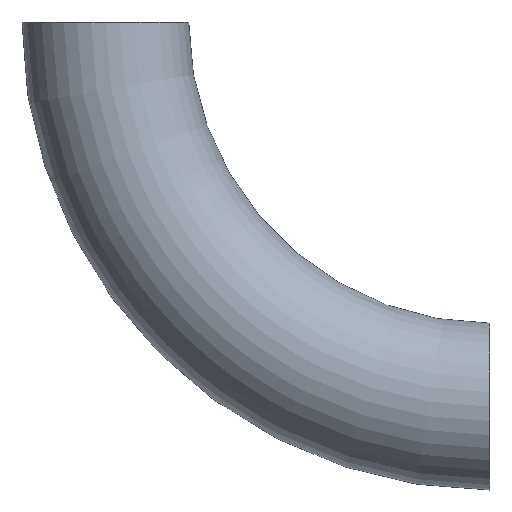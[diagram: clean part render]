
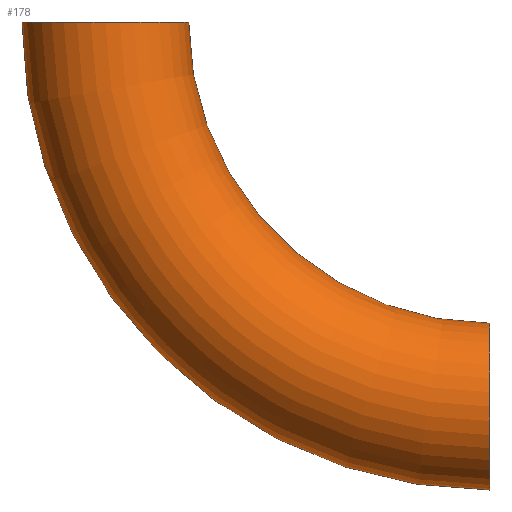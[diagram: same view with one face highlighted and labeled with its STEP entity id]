
A CAD part, front view. The second image highlights one B-rep face of the part: STEP entity #178.
In plain terms, the highlighted toroidal (fillet/blend) face has major radius 205 mm and minor radius 44.45 mm.
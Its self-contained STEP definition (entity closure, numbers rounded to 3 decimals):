
#7 = VERTEX_POINT ( 'NONE', #22 ) ;
#11 = CARTESIAN_POINT ( 'NONE',  ( 0., 0., -205. ) ) ;
#14 = CIRCLE ( 'NONE', #30, 44.45 ) ;
#15 = CARTESIAN_POINT ( 'NONE',  ( -249.45, 0., 0. ) ) ;
#16 = DIRECTION ( 'NONE',  ( 1., 0., 0. ) ) ;
#21 = EDGE_CURVE ( 'NONE', #193, #7, #188, .T. ) ;
#22 = CARTESIAN_POINT ( 'NONE',  ( -160.55, 0., 0. ) ) ;
#26 = TOROIDAL_SURFACE ( 'NONE', #152, 205., 44.45 ) ;
#27 = ORIENTED_EDGE ( 'NONE', *, *, #227, .F. ) ;
#30 = AXIS2_PLACEMENT_3D ( 'NONE', #11, #48, #245 ) ;
#34 = CARTESIAN_POINT ( 'NONE',  ( 0., 0., -249.45 ) ) ;
#42 = DIRECTION ( 'NONE',  ( 0., 0., 1. ) ) ;
#46 = DIRECTION ( 'NONE',  ( 0., 0., 1. ) ) ;
#48 = DIRECTION ( 'NONE',  ( -1., 0., 0. ) ) ;
#58 = ORIENTED_EDGE ( 'NONE', *, *, #232, .F. ) ;
#70 = FACE_OUTER_BOUND ( 'NONE', #135, .T. ) ;
#72 = CIRCLE ( 'NONE', #76, 249.45 ) ;
#76 = AXIS2_PLACEMENT_3D ( 'NONE', #207, #253, #165 ) ;
#82 = ORIENTED_EDGE ( 'NONE', *, *, #157, .T. ) ;
#94 = CIRCLE ( 'NONE', #173, 44.45 ) ;
#113 = ORIENTED_EDGE ( 'NONE', *, *, #21, .T. ) ;
#115 = VERTEX_POINT ( 'NONE', #15 ) ;
#135 = EDGE_LOOP ( 'NONE', ( #58, #82, #113, #27 ) ) ;
#151 = DIRECTION ( 'NONE',  ( 0., 1., 0. ) ) ;
#152 = AXIS2_PLACEMENT_3D ( 'NONE', #164, #162, #225 ) ;
#153 = CARTESIAN_POINT ( 'NONE',  ( 0., 0., 0. ) ) ;
#156 = CARTESIAN_POINT ( 'NONE',  ( -205., 0., 0. ) ) ;
#157 = EDGE_CURVE ( 'NONE', #197, #193, #14, .T. ) ;
#162 = DIRECTION ( 'NONE',  ( 0., 1., 0. ) ) ;
#164 = CARTESIAN_POINT ( 'NONE',  ( 0., 0., 0. ) ) ;
#165 = DIRECTION ( 'NONE',  ( 0., 0., 1. ) ) ;
#172 = AXIS2_PLACEMENT_3D ( 'NONE', #153, #151, #42 ) ;
#173 = AXIS2_PLACEMENT_3D ( 'NONE', #156, #46, #16 ) ;
#178 = ADVANCED_FACE ( 'NONE', ( #70 ), #26, .T. ) ;
#188 = CIRCLE ( 'NONE', #172, 160.55 ) ;
#193 = VERTEX_POINT ( 'NONE', #248 ) ;
#197 = VERTEX_POINT ( 'NONE', #34 ) ;
#207 = CARTESIAN_POINT ( 'NONE',  ( 0., 0., 0. ) ) ;
#225 = DIRECTION ( 'NONE',  ( 0., 0., 1. ) ) ;
#227 = EDGE_CURVE ( 'NONE', #115, #7, #94, .T. ) ;
#232 = EDGE_CURVE ( 'NONE', #197, #115, #72, .T. ) ;
#245 = DIRECTION ( 'NONE',  ( 0., 0., 1. ) ) ;
#248 = CARTESIAN_POINT ( 'NONE',  ( 0., 0., -160.55 ) ) ;
#253 = DIRECTION ( 'NONE',  ( 0., 1., 0. ) ) ;
